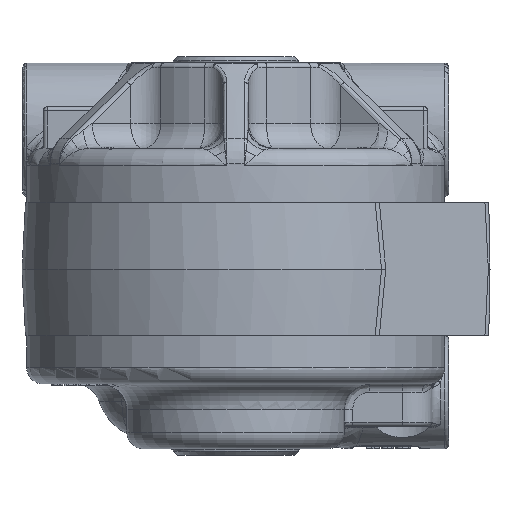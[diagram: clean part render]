
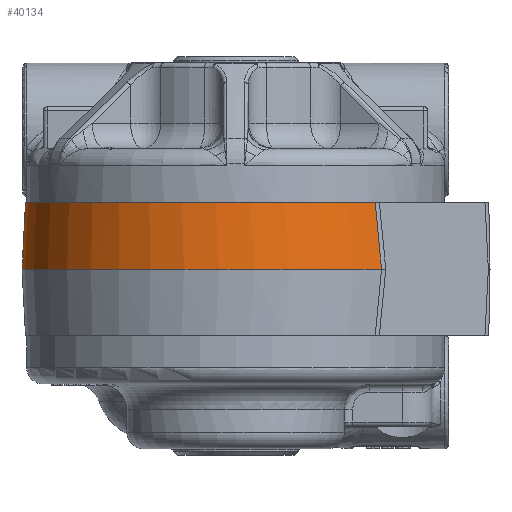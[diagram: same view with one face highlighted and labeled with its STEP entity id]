
A CAD part, front view. The second image highlights one B-rep face of the part: STEP entity #40134.
In plain terms, the highlighted conical face has half-angle 3 degrees and reference radius 81.28 mm.
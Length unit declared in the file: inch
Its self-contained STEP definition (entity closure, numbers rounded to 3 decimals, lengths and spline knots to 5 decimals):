
#38388=CARTESIAN_POINT('',(2.0901,-2.3535,0.9995));
#38389=VERTEX_POINT('',#38388);
#38538=CARTESIAN_POINT('',(-3.10359,0.5246,0.9995));
#38539=VERTEX_POINT('',#38538);
#38546=CARTESIAN_POINT('',(0.0,0.0,0.9995));
#38547=DIRECTION('',(0.0,0.0,1.0));
#38548=DIRECTION('',(-0.986,0.167,0.0));
#38549=AXIS2_PLACEMENT_3D('',#38546,#38547,#38548);
#38550=CIRCLE('',#38549,3.14762);
#38551=EDGE_CURVE('',#38539,#38389,#38550,.T.);
#39565=CARTESIAN_POINT('',(-3.15524,0.53333,0.0));
#39566=VERTEX_POINT('',#39565);
#39589=CARTESIAN_POINT('',(2.18425,-2.3386,0.));
#39590=VERTEX_POINT('',#39589);
#39598=CARTESIAN_POINT('',(0.0,0.0,0.0));
#39599=DIRECTION('',(0.0,0.0,1.0));
#39600=DIRECTION('',(-0.986,0.167,0.0));
#39601=AXIS2_PLACEMENT_3D('',#39598,#39599,#39600);
#39602=CIRCLE('',#39601,3.2);
#39603=EDGE_CURVE('',#39566,#39590,#39602,.T.);
#39897=CARTESIAN_POINT('',(2.0901,-2.3535,0.9995));
#39898=CARTESIAN_POINT('',(2.1221,-2.34844,0.6664));
#39899=CARTESIAN_POINT('',(2.15345,-2.34347,0.33323));
#39900=CARTESIAN_POINT('',(2.18425,-2.3386,0.));
#39901=B_SPLINE_CURVE_WITH_KNOTS('',3,(#39897,#39898,#39899,#39900),.UNSPECIFIED.,.F.,.U.,(4,4),(1.03764,3.58853),.UNSPECIFIED.);
#39902=EDGE_CURVE('',#38389,#39590,#39901,.T.);
#40118=CARTESIAN_POINT('',(0.0,0.0,0.0));
#40119=DIRECTION('',(0.0,0.0,-1.0));
#40120=DIRECTION('',(-0.986,0.167,0.0));
#40121=AXIS2_PLACEMENT_3D('',#40118,#40119,#40120);
#40122=CONICAL_SURFACE('',#40121,3.2,3.0);
#40123=ORIENTED_EDGE('',*,*,#38551,.F.);
#40124=CARTESIAN_POINT('',(-3.15524,0.53333,0.0));
#40125=DIRECTION('',(0.052,-0.009,0.999));
#40126=VECTOR('',#40125,1.00087);
#40127=LINE('',#40124,#40126);
#40128=EDGE_CURVE('',#39566,#38539,#40127,.T.);
#40129=ORIENTED_EDGE('',*,*,#40128,.F.);
#40130=ORIENTED_EDGE('',*,*,#39603,.T.);
#40131=ORIENTED_EDGE('',*,*,#39902,.F.);
#40132=EDGE_LOOP('',(#40123,#40129,#40130,#40131));
#40133=FACE_OUTER_BOUND('',#40132,.T.);
#40134=ADVANCED_FACE('',(#40133),#40122,.T.);
